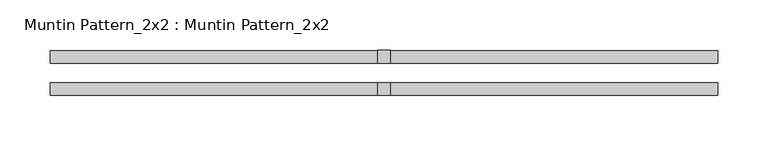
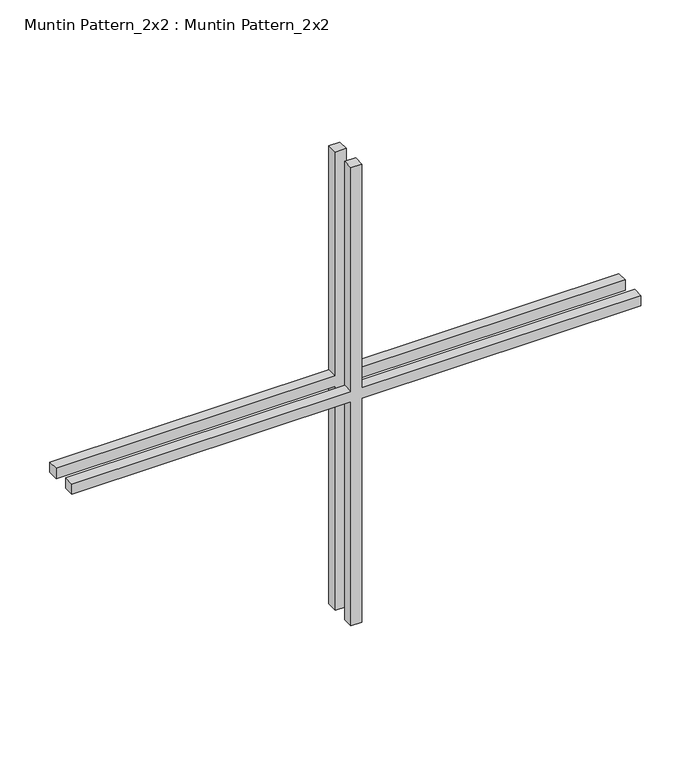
"""IFC4 building model written with IfcOpenShell, lengths in millimetres: proxy geometry, Muntin Pattern_2x2 : Muntin Pattern_2x2."""

from ifc_helpers import new_model, si_unit, frame, origin, place, context, project, spatial, polyline, outline, extrude, source, transform, mapped, element, save


def muntin_pattern_2x2_muntin_pattern_2x2_f7ef5741(model_context):
    return source(origin(), model_context, "Body", "SweptSolid", [
        extrude(outline(polyline([(287.3375, -6.35), (287.3375, -330.2), (274.6375, -330.2), (274.6375, -6.35), (0.0, -6.35), (0.0, 6.35), (274.6375, 6.35), (274.6375, 330.2), (287.3375, 330.2), (287.3375, 6.35), (561.975, 6.35), (561.975, -6.35), (287.3375, -6.35)])), frame((0.0, 9.525, 0.0), z_axis=(0.0, 1.0, 0.0), x_axis=(0.0, 0.0, 1.0)), (0.0, 0.0, 1.0), 12.7),
        extrude(outline(polyline([(287.3375, -6.35), (287.3375, -330.2), (274.6375, -330.2), (274.6375, -6.35), (0.0, -6.35), (0.0, 6.35), (274.6375, 6.35), (274.6375, 330.2), (287.3375, 330.2), (287.3375, 6.35), (561.975, 6.35), (561.975, -6.35), (287.3375, -6.35)])), frame((0.0, -22.225, 0.0), z_axis=(0.0, 1.0, 0.0), x_axis=(0.0, 0.0, 1.0)), (0.0, 0.0, 1.0), 12.7),
    ])


if __name__ == "__main__":
    model = new_model("IFC4")
    model_context = context("Model", 3, world=origin())
    ifc_project = project(units=[si_unit("LENGTHUNIT", "METRE", prefix="MILLI")], contexts=[model_context])
    site = spatial("IfcSite", under=ifc_project)
    building = spatial("IfcBuilding", under=site)
    placement = place(None, origin())
    muntin_pattern_2x2_muntin_pattern_2x2_shape = muntin_pattern_2x2_muntin_pattern_2x2_f7ef5741(model_context)
    element("IfcBuildingElementProxy", 1, Name="Muntin Pattern_2x2 : Muntin Pattern_2x2", ObjectType="Muntin Pattern_2x2 : Muntin Pattern_2x2", at=placement, inside=building, context=model_context, shape_type="MappedRepresentation", body=[
        mapped(muntin_pattern_2x2_muntin_pattern_2x2_shape, transform((0.0, 0.0, 0.0), x_axis=(1.0, 0.0, 0.0), y_axis=(0.0, 1.0, 0.0), z_axis=(0.0, 0.0, 1.0))),
    ])
    save(model, "model.ifc")
